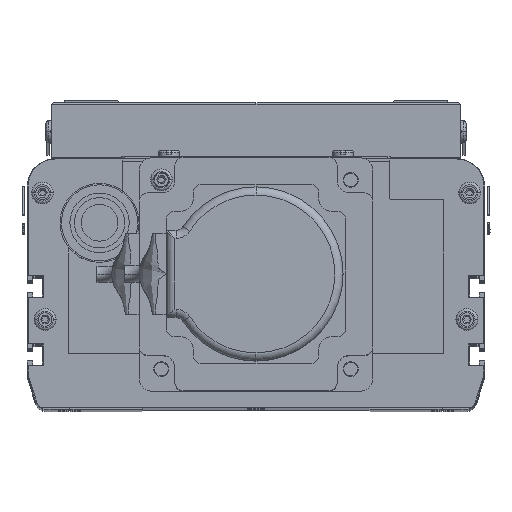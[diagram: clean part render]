
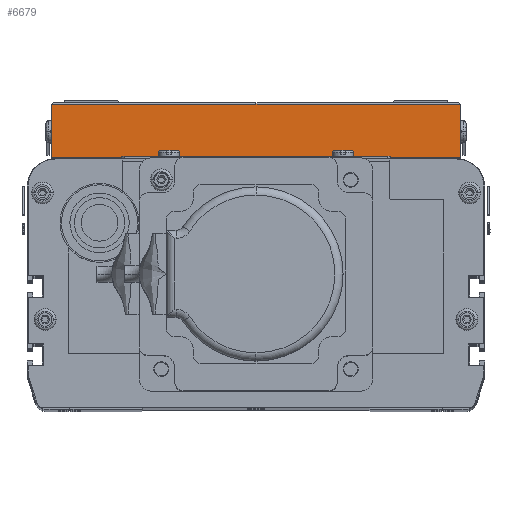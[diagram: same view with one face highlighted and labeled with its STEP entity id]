
A CAD part, top view. The second image highlights one B-rep face of the part: STEP entity #6679.
In plain terms, the highlighted planar face has unit normal (0, 0, 1) as drawn and (1, 0, 0) by its records, which use the part's own axes.
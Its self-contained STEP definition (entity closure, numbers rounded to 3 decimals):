
#6370 = EDGE_CURVE ( 'NONE', #7075, #6528, #54390, .T. ) ;
#6385 = EDGE_CURVE ( 'NONE', #7207, #6528, #54609, .T. ) ;
#6528 = VERTEX_POINT ( 'NONE', #55036 ) ;
#6636 = ORIENTED_EDGE ( 'NONE', *, *, #6878, .T. ) ;
#6638 = EDGE_CURVE ( 'NONE', #6733, #6716, #55026, .T. ) ;
#6667 = ORIENTED_EDGE ( 'NONE', *, *, #6370, .T. ) ;
#6679 = ADVANCED_FACE ( 'NONE', ( #55027 ), #54824, .F. ) ;
#6680 = ORIENTED_EDGE ( 'NONE', *, *, #6638, .T. ) ;
#6682 = ORIENTED_EDGE ( 'NONE', *, *, #6385, .F. ) ;
#6703 = ORIENTED_EDGE ( 'NONE', *, *, #6886, .T. ) ;
#6708 = EDGE_LOOP ( 'NONE', ( #6682, #6703, #6680, #6636, #6667 ) ) ;
#6716 = VERTEX_POINT ( 'NONE', #54821 ) ;
#6733 = VERTEX_POINT ( 'NONE', #54950 ) ;
#6878 = EDGE_CURVE ( 'NONE', #6716, #7075, #55405, .T. ) ;
#6886 = EDGE_CURVE ( 'NONE', #7207, #6733, #55154, .T. ) ;
#7075 = VERTEX_POINT ( 'NONE', #55065 ) ;
#7207 = VERTEX_POINT ( 'NONE', #55657 ) ;
#54390 = LINE ( 'NONE', #54499, #54495 ) ;
#54494 = DIRECTION ( 'NONE',  ( 0., 0., -1. ) ) ;
#54495 = VECTOR ( 'NONE', #54494, 1000. ) ;
#54499 = CARTESIAN_POINT ( 'NONE',  ( 220., 0., 0. ) ) ;
#54602 = DIRECTION ( 'NONE',  ( 0., -1., 0. ) ) ;
#54603 = VECTOR ( 'NONE', #54602, 1000. ) ;
#54608 = CARTESIAN_POINT ( 'NONE',  ( 220., 20., -150. ) ) ;
#54609 = LINE ( 'NONE', #54608, #54603 ) ;
#54813 = CARTESIAN_POINT ( 'NONE',  ( 220., 20., 0. ) ) ;
#54818 = AXIS2_PLACEMENT_3D ( 'NONE', #54813, #54835, #54971 ) ;
#54821 = CARTESIAN_POINT ( 'NONE',  ( 220., 19.5, 0. ) ) ;
#54824 = PLANE ( 'NONE',  #54818 ) ;
#54835 = DIRECTION ( 'NONE',  ( -1., 0., 0. ) ) ;
#54950 = CARTESIAN_POINT ( 'NONE',  ( 220., 19.5, -75. ) ) ;
#54971 = DIRECTION ( 'NONE',  ( 0., 0., 1. ) ) ;
#55022 = DIRECTION ( 'NONE',  ( 0., 0., 1. ) ) ;
#55023 = VECTOR ( 'NONE', #55022, 1000. ) ;
#55025 = CARTESIAN_POINT ( 'NONE',  ( 220., 19.5, 0. ) ) ;
#55026 = LINE ( 'NONE', #55025, #55023 ) ;
#55027 = FACE_OUTER_BOUND ( 'NONE', #6708, .T. ) ;
#55036 = CARTESIAN_POINT ( 'NONE',  ( 220., 0., -150. ) ) ;
#55065 = CARTESIAN_POINT ( 'NONE',  ( 220., 0., 0. ) ) ;
#55151 = DIRECTION ( 'NONE',  ( 0., 0., 1. ) ) ;
#55153 = CARTESIAN_POINT ( 'NONE',  ( 220., 19.5, 0. ) ) ;
#55154 = LINE ( 'NONE', #55153, #55302 ) ;
#55162 = DIRECTION ( 'NONE',  ( 0., -1., 0. ) ) ;
#55163 = VECTOR ( 'NONE', #55162, 1000. ) ;
#55302 = VECTOR ( 'NONE', #55151, 1000. ) ;
#55403 = CARTESIAN_POINT ( 'NONE',  ( 220., 20., 0. ) ) ;
#55405 = LINE ( 'NONE', #55403, #55163 ) ;
#55657 = CARTESIAN_POINT ( 'NONE',  ( 220., 19.5, -150. ) ) ;
